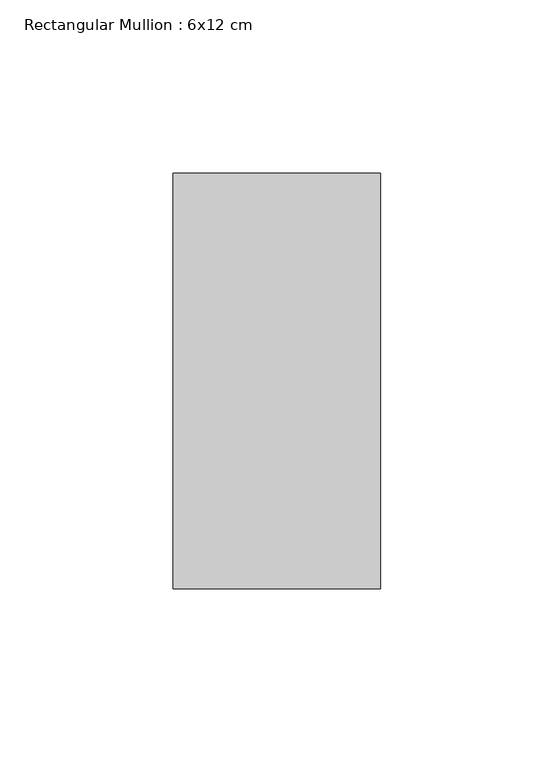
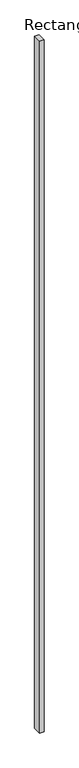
"""IFC4 building model written with IfcOpenShell, lengths in millimetres: member geometry, Rectangular Mullion : 6x12 cm."""

from ifc_helpers import new_model, si_unit, frame, origin, place, context, project, spatial, polyline, outline, extrude, source, transform, mapped, element, save


def rectangular_mullion_6x12_cm_8a56dd14(model_context):
    return source(origin(), model_context, "Body", "SweptSolid", [
        extrude(outline(polyline([(30.0, 205.0), (30.0, 85.0), (-30.0, 85.0), (-30.0, 205.0), (30.0, 205.0)])), frame((0.0, 0.0, -9964.3652228), z_axis=(0.0, 0.0, 1.0), x_axis=(1.0, 0.0, 0.0)), (0.0, 0.0, 1.0), 9964.3652228),
    ])


if __name__ == "__main__":
    model = new_model("IFC4")
    model_context = context("Model", 3, world=origin())
    ifc_project = project(units=[si_unit("LENGTHUNIT", "METRE", prefix="MILLI")], contexts=[model_context])
    site = spatial("IfcSite", under=ifc_project)
    building = spatial("IfcBuilding", under=site)
    placement = place(None, origin())
    rectangular_mullion_6x12_cm_shape = rectangular_mullion_6x12_cm_8a56dd14(model_context)
    element("IfcMember", 1, ObjectType="Rectangular Mullion : 6x12 cm", at=placement, inside=building, context=model_context, shape_type="MappedRepresentation", body=[
        mapped(rectangular_mullion_6x12_cm_shape, transform((0.0, 0.0, 0.0), x_axis=(1.0, 0.0, 0.0), y_axis=(0.0, 1.0, 0.0), z_axis=(0.0, 0.0, 1.0))),
    ])
    save(model, "model.ifc")
